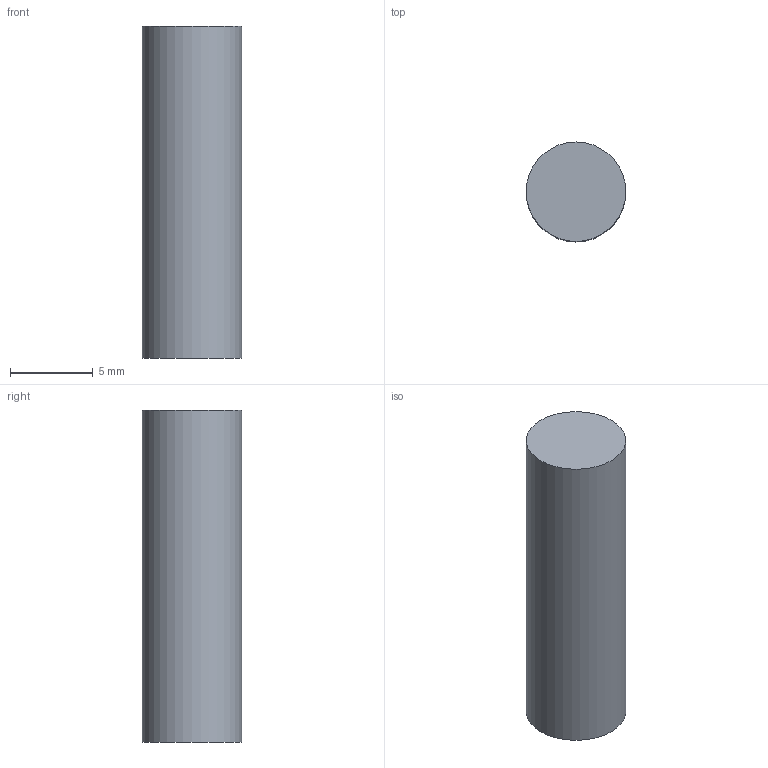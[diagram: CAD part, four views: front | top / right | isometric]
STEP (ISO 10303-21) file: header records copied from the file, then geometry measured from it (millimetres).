
FILE_DESCRIPTION(('Open CASCADE Model'),'2;1');
FILE_NAME('Open CASCADE Shape Model','2026-10-17T21:05:52',('Author'),( 'Open CASCADE'),'Open CASCADE STEP processor 7.9','Open CASCADE 7.9' ,'Unknown');
FILE_SCHEMA(('AUTOMOTIVE_DESIGN { 1 0 10303 214 1 1 1 1 }'));
Length unit declared in the file: millimetre
Products named in the file (1): Open CASCADE STEP translator 7.9 25
Bounding box: 6 x 6 x 20.01 mm (x, y, z)
Volume: 565.8 mm3; surface area: 433.7 mm2
Topology: 1 solids, 1 shells, 3 faces, 3 edges, 2 vertices
Faces by surface type: plane 2, cylinder 1
Full cylindrical faces by diameter (mm): 6 x1
Entity records: 108 total; most frequent: DIRECTION 19, CARTESIAN_POINT 15, AXIS2_PLACEMENT_3D 6, ORIENTED_EDGE 6, PCURVE 6, DEFINITIONAL_REPRESENTATION 6, LINE 5, VECTOR 5
